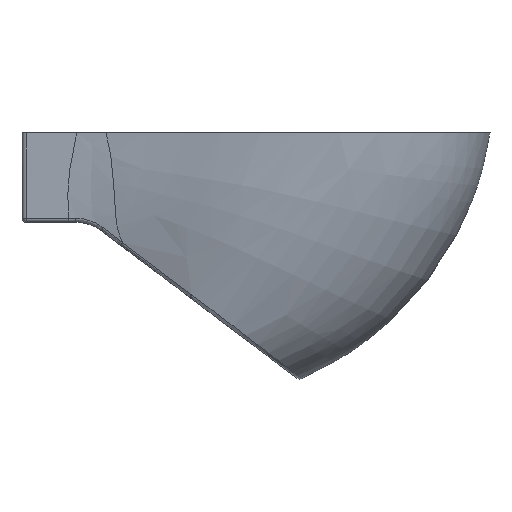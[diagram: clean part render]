
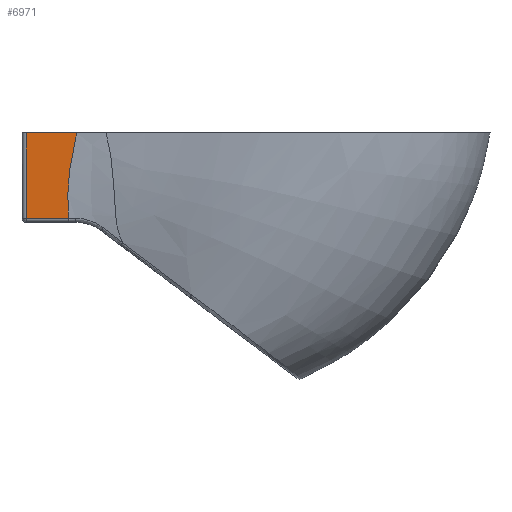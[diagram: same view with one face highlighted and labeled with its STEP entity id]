
A CAD part, left-side view. The second image highlights one B-rep face of the part: STEP entity #6971.
In plain terms, the highlighted planar face has unit normal (-0.999, 0, -0.048).
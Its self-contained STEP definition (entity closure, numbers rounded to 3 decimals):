
#32 = CARTESIAN_POINT ( 'NONE',  ( -135.085, 270., 0. ) ) ;
#67 = CARTESIAN_POINT ( 'NONE',  ( -134.29, 214.665, -16.415 ) ) ;
#804 = CARTESIAN_POINT ( 'NONE',  ( -130.23, 220.274, -100.242 ) ) ;
#1184 = ORIENTED_EDGE ( 'NONE', *, *, #17560, .F. ) ;
#2462 = CARTESIAN_POINT ( 'NONE',  ( -133.084, 218.878, -41.326 ) ) ;
#3204 = PLANE ( 'NONE',  #5373 ) ;
#4913 = CARTESIAN_POINT ( 'NONE',  ( -132.27, 220.494, -58.134 ) ) ;
#5089 = VECTOR ( 'NONE', #15005, 1000. ) ;
#5373 = AXIS2_PLACEMENT_3D ( 'NONE', #29451, #20025, #5648 ) ;
#5648 = DIRECTION ( 'NONE',  ( -0.048, 0., 0.999 ) ) ;
#6901 = B_SPLINE_CURVE_WITH_KNOTS ( 'NONE', 3,
 ( #28726, #12086, #67, #16922, #2462, #19298, #4913, #21690, #7345, #24064, #9743, #26439, #12192, #28829 ),
 .UNSPECIFIED., .F., .F.,
 ( 4, 2, 2, 2, 2, 2, 4 ),
 ( 0., 0.025, 0.051, 0.063, 0.076, 0.089, 0.101 ),
 .UNSPECIFIED. ) ;
#6971 = ADVANCED_FACE ( 'NONE', ( #11175 ), #3204, .F. ) ;
#7331 = CARTESIAN_POINT ( 'NONE',  ( -135.085, 210.778, 0. ) ) ;
#7345 = CARTESIAN_POINT ( 'NONE',  ( -131.658, 221.136, -70.754 ) ) ;
#7462 = ORIENTED_EDGE ( 'NONE', *, *, #21348, .F. ) ;
#9743 = CARTESIAN_POINT ( 'NONE',  ( -131.047, 221.199, -83.386 ) ) ;
#10597 = VERTEX_POINT ( 'NONE', #7331 ) ;
#10953 = LINE ( 'NONE', #27626, #17366 ) ;
#11175 = FACE_OUTER_BOUND ( 'NONE', #14821, .T. ) ;
#12086 = CARTESIAN_POINT ( 'NONE',  ( -134.689, 212.848, -8.184 ) ) ;
#12192 = CARTESIAN_POINT ( 'NONE',  ( -130.434, 220.643, -96.034 ) ) ;
#14821 = EDGE_LOOP ( 'NONE', ( #18100, #28735, #7462, #1184 ) ) ;
#15005 = DIRECTION ( 'NONE',  ( -0.048, 0., 0.999 ) ) ;
#16072 = CARTESIAN_POINT ( 'NONE',  ( -130.23, 275., -100.242 ) ) ;
#16922 = CARTESIAN_POINT ( 'NONE',  ( -133.487, 217.678, -32.986 ) ) ;
#17366 = VECTOR ( 'NONE', #25247, 1000. ) ;
#17560 = EDGE_CURVE ( 'NONE', #29094, #22170, #21244, .T. ) ;
#18100 = ORIENTED_EDGE ( 'NONE', *, *, #20328, .F. ) ;
#18449 = DIRECTION ( 'NONE',  ( 0., 1., 0. ) ) ;
#19298 = CARTESIAN_POINT ( 'NONE',  ( -132.473, 220.157, -53.928 ) ) ;
#19750 = VECTOR ( 'NONE', #18449, 1000. ) ;
#20025 = DIRECTION ( 'NONE',  ( 0.999, 0., 0.048 ) ) ;
#20328 = EDGE_CURVE ( 'NONE', #10597, #29094, #6901, .T. ) ;
#21096 = VERTEX_POINT ( 'NONE', #32 ) ;
#21244 = LINE ( 'NONE', #16072, #19750 ) ;
#21348 = EDGE_CURVE ( 'NONE', #22170, #21096, #29718, .T. ) ;
#21513 = CARTESIAN_POINT ( 'NONE',  ( -130.23, 270., -100.242 ) ) ;
#21690 = CARTESIAN_POINT ( 'NONE',  ( -131.862, 220.984, -66.546 ) ) ;
#22170 = VERTEX_POINT ( 'NONE', #21513 ) ;
#23514 = EDGE_CURVE ( 'NONE', #21096, #10597, #10953, .T. ) ;
#24064 = CARTESIAN_POINT ( 'NONE',  ( -131.251, 221.244, -79.174 ) ) ;
#25247 = DIRECTION ( 'NONE',  ( 0., -1., 0. ) ) ;
#26439 = CARTESIAN_POINT ( 'NONE',  ( -130.639, 220.899, -91.814 ) ) ;
#27626 = CARTESIAN_POINT ( 'NONE',  ( -135.085, 275., 0. ) ) ;
#28726 = CARTESIAN_POINT ( 'NONE',  ( -135.085, 210.778, 0. ) ) ;
#28735 = ORIENTED_EDGE ( 'NONE', *, *, #23514, .F. ) ;
#28829 = CARTESIAN_POINT ( 'NONE',  ( -130.23, 220.274, -100.242 ) ) ;
#29094 = VERTEX_POINT ( 'NONE', #804 ) ;
#29201 = CARTESIAN_POINT ( 'NONE',  ( -135.085, 270., 0. ) ) ;
#29451 = CARTESIAN_POINT ( 'NONE',  ( -135.085, 275., 0. ) ) ;
#29718 = LINE ( 'NONE', #29201, #5089 ) ;
